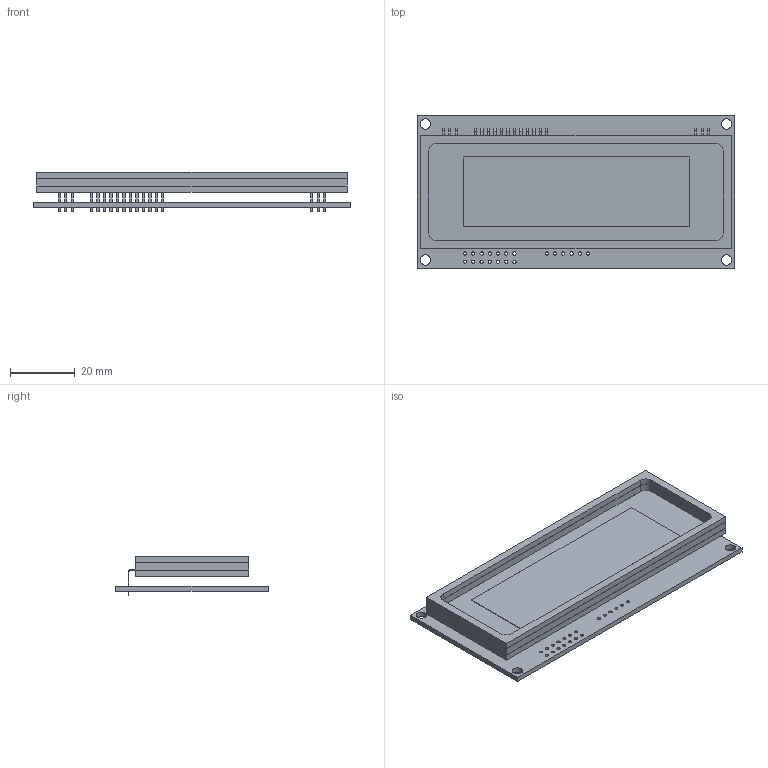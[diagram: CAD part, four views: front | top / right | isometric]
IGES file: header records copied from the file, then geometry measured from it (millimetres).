
Start section:  PTC IGES file: gu140x32f-7050.igs
Global section: file name: gu140x32f-7050.igs; native system: Pro/ENGINEER by Parametric Technology Corporation; preprocessor: 2010280; author: samx; organization: Unknown; date: 20140522.114912; units: millimetre
Bounding box: 98 x 47 x 12.3 mm (x, y, z)
Volume: 16671 mm3; surface area: 21851.5 mm2
Topology: 2 solids, 2 shells, 345 faces, 1080 edges, 708 vertices
Faces by surface type: bspline 253, revolution 92
